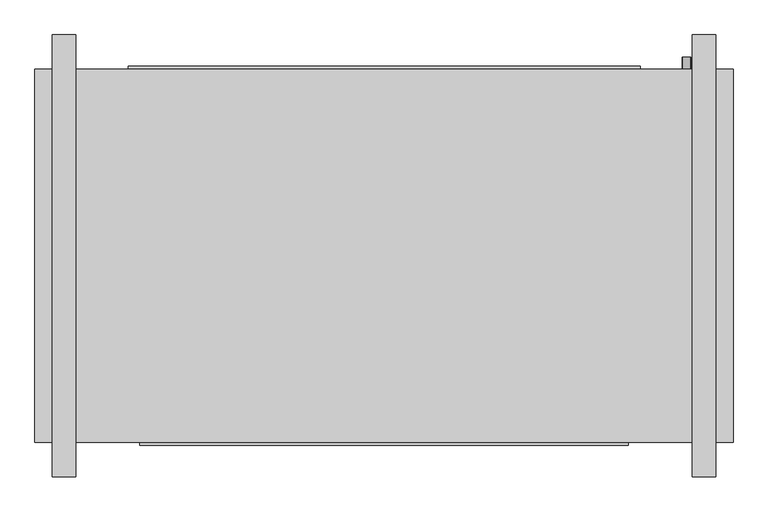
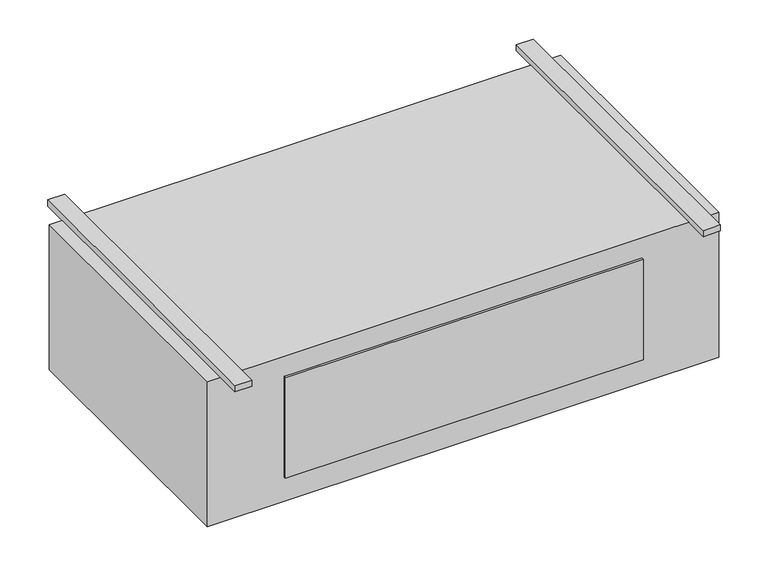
"""IFC4 building model written with IfcOpenShell, lengths in millimetres: proxy geometry, Exposed_High_Capacity_Horizontal_Cabinet_Fan_Coil_Unit_-_42DFA_-_CARRIER_-_2-Pipe_Cool-EHeat_RH_2022 : Size 18 - 277v/60Hz/1Ph - 6 Row 12.0kW."""

from ifc_helpers import new_model, si_unit, point, frame, frame_2d, origin, origin_with_axes, place, context, project, spatial, polyline, circle_curve, trimmed, segment, composite_curve, outline, extrude, source, transform, mapped, element, save


def mechanical_equipment_0f606a30(model_context):
    return source(origin(), model_context, "Body", "SweptSolid", [
        extrude(outline(composite_curve([segment(trimmed(circle_curve(frame_2d((-406.4, 812.8)), 9.525), [point((-406.4, 803.275))], [point((-406.4, 822.325))], False, "CARTESIAN"), True, "CONTINUOUS"), segment(trimmed(circle_curve(frame_2d((-406.4, 812.8)), 9.525), [point((-406.4, 822.325))], [point((-406.4, 803.275))], False, "CARTESIAN"), True, "CONTINUOUS")], self_intersect=False)), frame((0.0, 169.8625, 0.0), z_axis=(0.0, 1.0, 0.0), x_axis=(0.0, 0.0, 1.0)), (0.0, 0.0, 1.0), 25.4),
        extrude(outline(composite_curve([segment(trimmed(circle_curve(frame_2d((-330.2, 812.8)), 7.9375), [point((-330.2, 804.8625))], [point((-330.2, 820.7375))], False, "CARTESIAN"), True, "CONTINUOUS"), segment(trimmed(circle_curve(frame_2d((-330.2, 812.8)), 7.9375), [point((-330.2, 820.7375))], [point((-330.2, 804.8625))], False, "CARTESIAN"), True, "CONTINUOUS")], self_intersect=False)), frame((0.0, 169.8625, 0.0), z_axis=(0.0, 1.0, 0.0), x_axis=(0.0, 0.0, 1.0)), (0.0, 0.0, 1.0), 25.4),
        extrude(outline(composite_curve([segment(trimmed(circle_curve(frame_2d((-254.0, 812.8)), 7.9375), [point((-254.0, 804.8625))], [point((-254.0, 820.7375))], False, "CARTESIAN"), True, "CONTINUOUS"), segment(trimmed(circle_curve(frame_2d((-254.0, 812.8)), 7.9375), [point((-254.0, 820.7375))], [point((-254.0, 804.8625))], False, "CARTESIAN"), True, "CONTINUOUS")], self_intersect=False)), frame((0.0, 169.8625, 0.0), z_axis=(0.0, 1.0, 0.0), x_axis=(0.0, 0.0, 1.0)), (0.0, 0.0, 1.0), 25.4),
        extrude(outline(polyline([(914.4, 169.8625), (914.4, -646.1125), (-609.6, -646.1125), (-609.6, 169.8625), (914.4, 169.8625)])), frame((0.0, 0.0, -457.2), z_axis=(0.0, 0.0, 1.0), x_axis=(1.0, 0.0, 0.0)), (0.0, 0.0, 1.0), 457.2),
        extrude(outline(polyline([(-406.4, 176.2125), (711.2, 176.2125), (711.2, 169.8625), (-406.4, 169.8625), (-406.4, 176.2125)])), frame((0.0, 0.0, -381.0), z_axis=(0.0, 0.0, 1.0), x_axis=(1.0, 0.0, 0.0)), (0.0, 0.0, 1.0), 355.6),
        extrude(outline(polyline([(-520.7, 244.475), (-520.7, -720.725), (-571.5, -720.725), (-571.5, 244.475), (-520.7, 244.475)])), origin_with_axes(), (0.0, 0.0, 1.0), 19.05),
        extrude(outline(polyline([(876.3, 244.475), (876.3, -720.725), (825.5, -720.725), (825.5, 244.475), (876.3, 244.475)])), origin_with_axes(), (0.0, 0.0, 1.0), 19.05),
        extrude(outline(polyline([(685.8, -652.4625), (-381.0, -652.4625), (-381.0, -646.1125), (685.8, -646.1125), (685.8, -652.4625)])), frame((0.0, 0.0, -381.0), z_axis=(0.0, 0.0, 1.0), x_axis=(1.0, 0.0, 0.0)), (0.0, 0.0, 1.0), 317.5),
    ])


if __name__ == "__main__":
    model = new_model("IFC4")
    model_context = context("Model", 3, world=origin())
    ifc_project = project(units=[si_unit("LENGTHUNIT", "METRE", prefix="MILLI")], contexts=[model_context])
    site = spatial("IfcSite", under=ifc_project)
    building = spatial("IfcBuilding", under=site)
    placement = place(None, origin())
    mechanical_equipment_shape = mechanical_equipment_0f606a30(model_context)
    element("IfcBuildingElementProxy", 1, Name="Exposed_High_Capacity_Horizontal_Cabinet_Fan_Coil_Unit_-_42DFA_-_CARRIER_-_2-Pipe_Cool-EHeat_RH_2022 : Size 18 - 277v/60Hz/1Ph - 6 Row 12.0kW", ObjectType="Exposed_High_Capacity_Horizontal_Cabinet_Fan_Coil_Unit_-_42DFA_-_CARRIER_-_2-Pipe_Cool-EHeat_RH_2022 : Size 18 - 277v/60Hz/1Ph - 6 Row 12.0kW", at=placement, inside=building, context=model_context, shape_type="MappedRepresentation", body=[
        mapped(mechanical_equipment_shape, transform((0.0, 0.0, 0.0), x_axis=(1.0, 0.0, 0.0), y_axis=(0.0, 1.0, 0.0), z_axis=(0.0, 0.0, 1.0))),
    ])
    save(model, "model.ifc")
